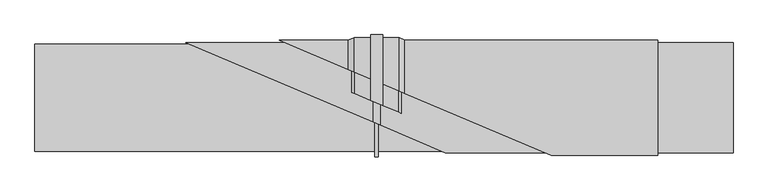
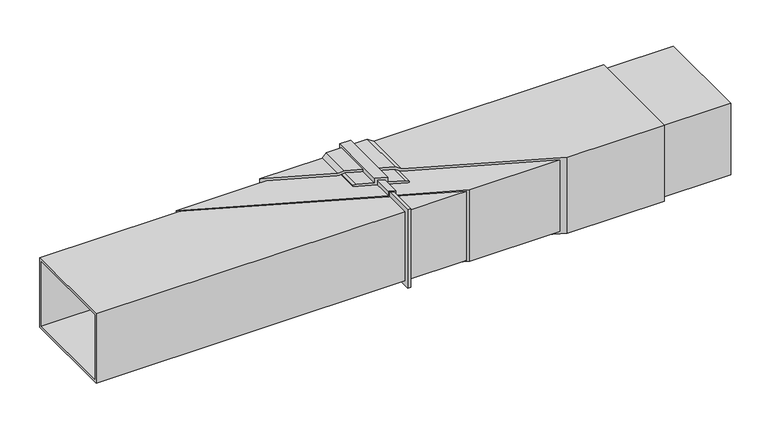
"""IFC4 building model written with IfcOpenShell, lengths in millimetres: proxy geometry, Фрагмент 3D конструкции Огнезащита Воздуховодов : Фрагмент 3D конструкции Огнезащита Воздуховодов."""

from ifc_helpers import new_model, si_unit, origin, place, context, project, spatial, faceted_brep, source, transform, mapped, element, save


def generic_models_c98b55d8(model_context):
    return source(origin(), model_context, "Body", "Brep", [
        faceted_brep([(-39922.0120594, -47104.8946848, -5.0), (-39922.0120594, -47104.8946848, 305.0), (-40158.1301083, -47104.8946848, 305.0), (-40158.1301083, -47104.8946848, -5.0), (-39922.0120594, -47205.1208502, -5.0), (-39841.2895248, -47094.8946848, 315.0), (-39841.2895248, -47094.8946848, -15.0), (-39841.2895248, -47239.3855332, -15.0), (-39841.2895248, -47239.3855332, -25.0), (-39841.2895248, -47084.8946848, -25.0), (-39841.2895248, -47084.8946848, 325.0), (-39841.2895248, -47239.3855332, 325.0), (-39841.2895248, -47239.3855332, 315.0), (-39922.0120594, -47205.1208502, 305.0), (-39900.5669902, -47094.8946848, 315.0), (-39900.5669902, -47094.8946848, -15.0), (-39900.5669902, -47214.223742, -15.0), (-39900.5669902, -47214.223742, 315.0), (-39902.7839368, -47084.8946848, -25.0), (-39902.7839368, -47084.8946848, 325.0), (-39924.229006, -47094.8946848, -15.0), (-39924.229006, -47094.8946848, 315.0), (-40181.688632, -47094.8946848, -15.0), (-40181.688632, -47094.8946848, 315.0), (-39902.7839368, -47213.282704, -25.0), (-39924.229006, -47204.1798122, -15.0), (-39902.7839368, -47213.282704, 325.0), (-39924.229006, -47204.1798122, 315.0)], [[[0, 1, 2, 3]], [[0, 3, 4]], [[5, 6, 7, 8, 9, 10, 11, 12]], [[2, 1, 13]], [[6, 5, 14, 15]], [[1, 0, 15, 14]], [[6, 15, 16, 7]], [[15, 0, 4, 16]], [[14, 5, 12, 17]], [[1, 14, 17, 13]], [[10, 9, 18, 19]], [[19, 18, 20, 21]], [[21, 20, 22, 23]], [[18, 9, 8, 24]], [[20, 18, 24, 25]], [[22, 20, 25]], [[10, 19, 26, 11]], [[19, 21, 27, 26]], [[27, 21, 23]], [[3, 2, 13, 17, 12, 11, 26, 27, 23, 22, 25, 24, 8, 7, 16, 4]]]),
        faceted_brep([(-38771.2895248, -47104.8946848, 305.0), (-39715.5669902, -47104.8946848, 305.0), (-39715.5669902, -47104.8946848, -5.0), (-38771.2895248, -47104.8946848, -5.0), (-39713.3500436, -47094.8946848, 315.0), (-38771.2895248, -47094.8946848, 315.0), (-38771.2895248, -47094.8946848, -15.0), (-39713.3500436, -47094.8946848, -15.0), (-39734.7951128, -47084.8946848, -25.0), (-39734.7951128, -47084.8946848, 325.0), (-39796.2895248, -47084.8946848, -25.0), (-39796.2895248, -47084.8946848, 325.0), (-39737.0120594, -47094.8946848, 315.0), (-39796.2895248, -47094.8946848, 315.0), (-39796.2895248, -47094.8946848, -15.0), (-39737.0120594, -47094.8946848, -15.0), (-39715.5669902, -47292.751583, -5.0), (-39192.2306383, -47514.8946848, -5.0), (-38771.2895248, -47514.8946848, -5.0), (-38771.2895248, -47524.8946848, -15.0), (-39168.6721147, -47524.8946848, -15.0), (-39713.3500436, -47293.692621, -15.0), (-39734.7951128, -47284.5897292, -25.0), (-39796.2895248, -47258.4869, -25.0), (-39796.2895248, -47258.4869, -15.0), (-39737.0120594, -47283.6486912, -15.0), (-38771.2895248, -47514.8946848, 305.0), (-39192.2306383, -47514.8946848, 305.0), (-38771.2895248, -47524.8946848, 315.0), (-39168.6721147, -47524.8946848, 315.0), (-39715.5669902, -47292.751583, 305.0), (-39713.3500436, -47293.692621, 315.0), (-39734.7951128, -47284.5897292, 325.0), (-39796.2895248, -47258.4869, 325.0), (-39796.2895248, -47258.4869, 315.0), (-39737.0120594, -47283.6486912, 315.0)], [[[0, 1, 2, 3]], [[4, 5, 6, 7]], [[4, 7, 8, 9]], [[9, 8, 10, 11]], [[12, 13, 14, 15]], [[2, 1, 12, 15]], [[3, 2, 16, 17, 18]], [[7, 6, 19, 20, 21]], [[8, 7, 21, 22]], [[10, 8, 22, 23]], [[15, 14, 24, 25]], [[2, 15, 25, 16]], [[26, 18, 17, 27]], [[19, 28, 29, 20]], [[1, 0, 26, 27, 30]], [[6, 5, 28, 19], [0, 3, 18, 26]], [[5, 4, 31, 29, 28]], [[4, 9, 32, 31]], [[9, 11, 33, 32]], [[11, 10, 23, 24, 14, 13, 34, 33]], [[13, 12, 35, 34]], [[12, 1, 30, 35]], [[17, 16, 25, 24, 23, 22, 21, 20, 29, 31, 32, 33, 34, 35, 30, 27]]]),
        faceted_brep([(-39806.2895248, -47084.8946848, 325.0), (-39831.2895248, -47084.8946848, 325.0), (-39831.2895248, -47084.8946848, -25.0), (-39806.2895248, -47084.8946848, -25.0), (-39726.2895248, -47104.8946848, 305.0), (-39806.2895248, -47104.8946848, 305.0), (-39806.2895248, -47104.8946848, -5.0), (-39726.2895248, -47104.8946848, -5.0), (-39841.2895248, -47074.8946848, 335.0), (-39796.2895248, -47074.8946848, 335.0), (-39796.2895248, -47074.8946848, -35.0), (-39841.2895248, -47074.8946848, -35.0), (-39831.2895248, -47104.8946848, 305.0), (-39911.2895248, -47104.8946848, 305.0), (-39911.2895248, -47104.8946848, -5.0), (-39831.2895248, -47104.8946848, -5.0), (-39831.2895248, -47323.7272447, -25.0), (-39806.2895248, -47334.3391151, -25.0), (-39806.2895248, -47334.3391151, -5.0), (-39726.2895248, -47368.2971004, -5.0), (-39796.2895248, -47338.5838632, -35.0), (-39841.2895248, -47319.4824965, -35.0), (-39911.2895248, -47289.7692594, -5.0), (-39831.2895248, -47323.7272447, -5.0), (-39831.2895248, -47323.7272447, 325.0), (-39831.2895248, -47323.7272447, 305.0), (-39806.2895248, -47334.3391151, 325.0), (-39806.2895248, -47334.3391151, 305.0), (-39726.2895248, -47368.2971004, 305.0), (-39796.2895248, -47338.5838632, 335.0), (-39796.2895248, -47338.5838632, 315.0), (-39796.2895248, -47094.8946848, 315.0), (-39796.2895248, -47094.8946848, -15.0), (-39796.2895248, -47338.5838632, -15.0), (-39841.2895248, -47319.4824965, 335.0), (-39841.2895248, -47319.4824965, -15.0), (-39841.2895248, -47094.8946848, -15.0), (-39841.2895248, -47094.8946848, 315.0), (-39841.2895248, -47319.4824965, 315.0), (-39911.2895248, -47289.7692594, 305.0), (-39737.0120594, -47094.8946848, 315.0), (-39726.2895248, -47099.8946848, 310.0), (-39726.2895248, -47099.8946848, -10.0), (-39737.0120594, -47094.8946848, -15.0), (-39900.5669902, -47094.8946848, -15.0), (-39900.5669902, -47094.8946848, 315.0), (-39911.2895248, -47099.8946848, -10.0), (-39911.2895248, -47099.8946848, 310.0), (-39726.2895248, -47368.2971004, -10.0), (-39737.0120594, -47363.7456545, -15.0), (-39900.5669902, -47294.3207053, -15.0), (-39911.2895248, -47289.7692594, -10.0), (-39726.2895248, -47368.2971004, 310.0), (-39737.0120594, -47363.7456545, 315.0), (-39900.5669902, -47294.3207053, 315.0), (-39911.2895248, -47289.7692594, 310.0)], [[[0, 1, 2, 3]], [[4, 5, 6, 7]], [[8, 9, 10, 11]], [[12, 13, 14, 15]], [[3, 2, 16, 17]], [[7, 6, 18, 19]], [[11, 10, 20, 21]], [[15, 14, 22, 23]], [[2, 1, 24, 25, 12, 15, 23, 16]], [[1, 0, 26, 24]], [[0, 3, 17, 18, 6, 5, 27, 26]], [[5, 4, 28, 27]], [[10, 9, 29, 30, 31, 32, 33, 20]], [[9, 8, 34, 29]], [[8, 11, 21, 35, 36, 37, 38, 34]], [[13, 12, 25, 39]], [[40, 41, 42, 43]], [[32, 31, 40, 43]], [[37, 36, 44, 45]], [[45, 44, 46, 47]], [[43, 42, 48, 49]], [[32, 43, 49, 33]], [[44, 36, 35, 50]], [[46, 44, 50, 51]], [[4, 7, 19, 48, 42, 41, 52, 28]], [[41, 40, 53, 52]], [[40, 31, 30, 53]], [[37, 45, 54, 38]], [[45, 47, 55, 54]], [[14, 13, 39, 55, 47, 46, 51, 22]], [[17, 16, 23, 22, 51, 50, 35, 21, 20, 33, 49, 48, 19, 18]], [[25, 24, 26, 27, 28, 52, 53, 30, 29, 34, 38, 54, 55, 39]]]),
        faceted_brep([(-39826.2895248, -47109.8946848, 300.0), (-39826.2895248, -47109.8946848, 0.0), (-39826.2895248, -47403.1631783, 0.0), (-39826.2895248, -47403.1631783, -20.0), (-39826.2895248, -47089.8946848, -20.0), (-39826.2895248, -47089.8946848, 320.0), (-39826.2895248, -47403.1631783, 320.0), (-39826.2895248, -47403.1631783, 300.0), (-40517.186799, -47109.8946848, 300.0), (-40517.186799, -47109.8946848, 0.0), (-39831.2895248, -47104.8946848, 305.0), (-39831.2895248, -47104.8946848, -5.0), (-40528.9660608, -47104.8946848, -5.0), (-40528.9660608, -47104.8946848, 305.0), (-39831.2895248, -47401.0408042, -5.0), (-39831.2895248, -47401.0408042, 305.0), (-39812.9276823, -47089.8946848, 320.0), (-39812.9276823, -47089.8946848, -20.0), (-39831.2895248, -47084.8946848, 325.0), (-39806.2895248, -47084.8946848, 325.0), (-39806.2895248, -47084.8946848, -25.0), (-39831.2895248, -47084.8946848, -25.0), (-39812.9276823, -47408.8349439, -20.0), (-39806.2895248, -47411.6526746, -25.0), (-39831.2895248, -47401.0408042, -25.0), (-39812.9276823, -47408.8349439, 320.0), (-39812.9276823, -47408.8349439, 0.0), (-39812.9276823, -47109.8946848, 0.0), (-39812.9276823, -47109.8946848, 300.0), (-39812.9276823, -47408.8349439, 300.0), (-39806.2895248, -47411.6526746, 325.0), (-39806.2895248, -47411.6526746, 305.0), (-39806.2895248, -47104.8946848, 305.0), (-39806.2895248, -47104.8946848, -5.0), (-39806.2895248, -47411.6526746, -5.0), (-39831.2895248, -47401.0408042, 325.0), (-38491.3985063, -47104.8946848, 305.0), (-38491.3985063, -47514.8946848, 305.0), (-38491.3985063, -47514.8946848, -5.0), (-38491.3985063, -47104.8946848, -5.0), (-38491.3985063, -47109.8946848, 300.0), (-38491.3985063, -47109.8946848, 0.0), (-38491.3985063, -47509.8946848, 0.0), (-38491.3985063, -47509.8946848, 300.0), (-39574.8458526, -47509.8946848, 300.0), (-39574.8458526, -47509.8946848, 0.0), (-39563.0665908, -47514.8946848, -5.0), (-39563.0665908, -47514.8946848, 305.0)], [[[0, 1, 2, 3, 4, 5, 6, 7]], [[0, 7, 8]], [[2, 1, 9]], [[1, 0, 8, 9]], [[10, 11, 12, 13]], [[12, 11, 14]], [[10, 13, 15]], [[16, 5, 4, 17]], [[18, 19, 20, 21]], [[17, 4, 3, 22]], [[21, 20, 23, 24]], [[5, 16, 25, 6]], [[16, 17, 22, 26, 27, 28, 29, 25]], [[20, 19, 30, 31, 32, 33, 34, 23]], [[19, 18, 35, 30]], [[18, 21, 24, 14, 11, 10, 15, 35]], [[36, 37, 38, 39], [40, 41, 42, 43]], [[40, 43, 44, 29, 28]], [[43, 42, 45, 44]], [[42, 41, 27, 26, 45]], [[28, 27, 41, 40]], [[36, 39, 33, 32]], [[39, 38, 46, 34, 33]], [[38, 37, 47, 46]], [[37, 36, 32, 31, 47]], [[13, 12, 14, 24, 23, 34, 46, 47, 31, 30, 35, 15], [3, 2, 9, 8, 7, 6, 25, 29, 44, 45, 26, 22]]]),
        faceted_brep([(-41091.3985063, -47109.8946848, 0.0), (-41091.3985063, -47509.8946848, 0.0), (-41091.3985063, -47509.8946848, 300.0), (-41091.3985063, -47109.8946848, 300.0), (-41091.3985063, -47499.8946848, 290.0), (-41091.3985063, -47499.8946848, 10.0), (-41091.3985063, -47119.8946848, 10.0), (-41091.3985063, -47119.8946848, 290.0), (-38491.3985063, -47109.8946848, 0.0), (-38491.3985063, -47109.8946848, 300.0), (-38491.3985063, -47509.8946848, 300.0), (-38491.3985063, -47509.8946848, 0.0), (-38491.3985063, -47499.8946848, 290.0), (-38491.3985063, -47119.8946848, 290.0), (-38491.3985063, -47119.8946848, 10.0), (-38491.3985063, -47499.8946848, 10.0), (-39826.2895248, -47109.8946848, 0.0), (-39826.2895248, -47509.8946848, 0.0), (-39812.9276823, -47509.8946848, 0.0), (-39812.9276823, -47109.8946848, 0.0), (-39826.2895248, -47509.8946848, 300.0), (-39812.9276823, -47509.8946848, 300.0), (-39826.2895248, -47109.8946848, 300.0), (-39812.9276823, -47109.8946848, 300.0), (-39826.2895248, -47089.8946848, 320.0), (-39826.2895248, -47089.8946848, -20.0), (-39826.2895248, -47529.8946848, -20.0), (-39826.2895248, -47529.8946848, 320.0), (-39812.9276823, -47089.8946848, 320.0), (-39812.9276823, -47529.8946848, 320.0), (-39812.9276823, -47529.8946848, -20.0), (-39812.9276823, -47089.8946848, -20.0)], [[[0, 1, 2, 3], [4, 5, 6, 7]], [[8, 9, 10, 11], [12, 13, 14, 15]], [[1, 0, 16, 17]], [[8, 11, 18, 19]], [[2, 1, 17, 20]], [[11, 10, 21, 18]], [[3, 2, 20, 22]], [[10, 9, 23, 21]], [[0, 3, 22, 16]], [[9, 8, 19, 23]], [[5, 4, 12, 15]], [[6, 5, 15, 14]], [[7, 6, 14, 13]], [[4, 7, 13, 12]], [[24, 25, 26, 27], [17, 16, 22, 20]], [[28, 29, 30, 31], [19, 18, 21, 23]], [[25, 24, 28, 31]], [[26, 25, 31, 30]], [[27, 26, 30, 29]], [[24, 27, 29, 28]]]),
    ])


if __name__ == "__main__":
    model = new_model("IFC4")
    model_context = context("Model", 3, world=origin())
    ifc_project = project(units=[si_unit("LENGTHUNIT", "METRE", prefix="MILLI")], contexts=[model_context])
    site = spatial("IfcSite", under=ifc_project)
    building = spatial("IfcBuilding", under=site)
    placement = place(None, origin())
    generic_models_shape = generic_models_c98b55d8(model_context)
    element("IfcBuildingElementProxy", 1, Name="Фрагмент 3D конструкции Огнезащита Воздуховодов : Фрагмент 3D конструкции Огнезащита Воздуховодов", ObjectType="Фрагмент 3D конструкции Огнезащита Воздуховодов : Фрагмент 3D конструкции Огнезащита Воздуховодов", at=placement, inside=building, context=model_context, shape_type="MappedRepresentation", body=[
        mapped(generic_models_shape, transform((0.0, 0.0, 0.0), x_axis=(1.0, 0.0, 0.0), y_axis=(0.0, 1.0, 0.0), z_axis=(0.0, 0.0, 1.0))),
    ])
    save(model, "model.ifc")
